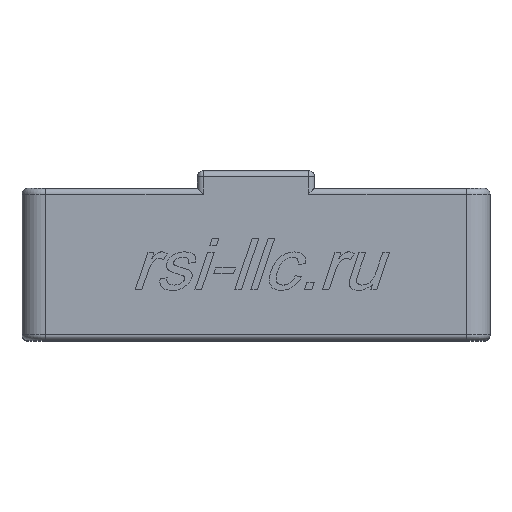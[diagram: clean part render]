
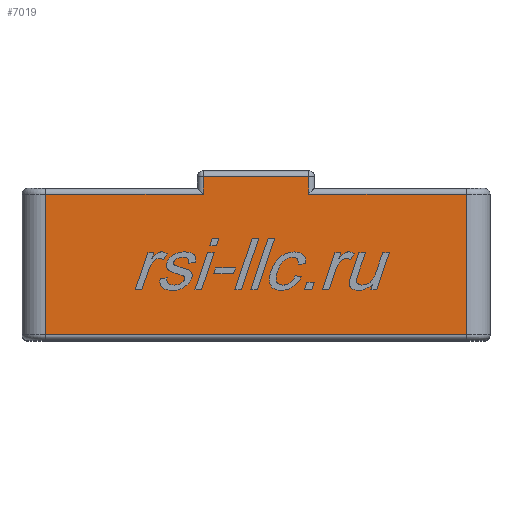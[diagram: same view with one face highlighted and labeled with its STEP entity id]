
A CAD part, top view. The second image highlights one B-rep face of the part: STEP entity #7019.
In plain terms, the highlighted planar face has unit normal (0, 0, 1).
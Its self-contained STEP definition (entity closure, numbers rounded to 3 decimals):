
#111 = EDGE_CURVE ( 'NONE', #3828, #9330, #7464, .T. ) ;
#196 = CARTESIAN_POINT ( 'NONE',  ( -4.5, 8., 20. ) ) ;
#231 = LINE ( 'NONE', #3742, #6544 ) ;
#521 = FACE_OUTER_BOUND ( 'NONE', #1381, .T. ) ;
#673 = VERTEX_POINT ( 'NONE', #8792 ) ;
#960 = DIRECTION ( 'NONE',  ( 0., -1., 0. ) ) ;
#1109 = CARTESIAN_POINT ( 'NONE',  ( 4.5, 6., 20. ) ) ;
#1183 = VECTOR ( 'NONE', #4587, 1000. ) ;
#1377 = VERTEX_POINT ( 'NONE', #10832 ) ;
#1381 = EDGE_LOOP ( 'NONE', ( #10564, #9162, #4146, #7813, #3777, #2684, #5734, #8548 ) ) ;
#1675 = EDGE_CURVE ( 'NONE', #3386, #3828, #7974, .T. ) ;
#1980 = CARTESIAN_POINT ( 'NONE',  ( 4.5, 6., 20. ) ) ;
#2051 = CARTESIAN_POINT ( 'NONE',  ( 18., 6., 20. ) ) ;
#2379 = CARTESIAN_POINT ( 'NONE',  ( -18., 6.5, 20. ) ) ;
#2466 = LINE ( 'NONE', #6843, #3739 ) ;
#2555 = VERTEX_POINT ( 'NONE', #2051 ) ;
#2628 = VERTEX_POINT ( 'NONE', #7405 ) ;
#2684 = ORIENTED_EDGE ( 'NONE', *, *, #8121, .T. ) ;
#2802 = CARTESIAN_POINT ( 'NONE',  ( -18., -6., 20. ) ) ;
#2837 = VERTEX_POINT ( 'NONE', #1980 ) ;
#3199 = DIRECTION ( 'NONE',  ( -1., 0., 0. ) ) ;
#3386 = VERTEX_POINT ( 'NONE', #6962 ) ;
#3544 = VECTOR ( 'NONE', #960, 1000. ) ;
#3699 = DIRECTION ( 'NONE',  ( 0., -1., 0. ) ) ;
#3739 = VECTOR ( 'NONE', #10257, 1000. ) ;
#3742 = CARTESIAN_POINT ( 'NONE',  ( -18., 7.5, 20. ) ) ;
#3777 = ORIENTED_EDGE ( 'NONE', *, *, #5511, .T. ) ;
#3828 = VERTEX_POINT ( 'NONE', #9187 ) ;
#4013 = PLANE ( 'NONE',  #6863 ) ;
#4146 = ORIENTED_EDGE ( 'NONE', *, *, #1675, .T. ) ;
#4154 = LINE ( 'NONE', #7580, #10181 ) ;
#4522 = CARTESIAN_POINT ( 'NONE',  ( -18., 6., 20. ) ) ;
#4587 = DIRECTION ( 'NONE',  ( -1., 0., 0. ) ) ;
#5283 = LINE ( 'NONE', #8701, #3544 ) ;
#5511 = EDGE_CURVE ( 'NONE', #9330, #673, #5283, .T. ) ;
#5734 = ORIENTED_EDGE ( 'NONE', *, *, #10974, .F. ) ;
#5809 = DIRECTION ( 'NONE',  ( 0., 0., -1. ) ) ;
#5923 = EDGE_CURVE ( 'NONE', #1377, #2837, #2466, .T. ) ;
#6053 = EDGE_CURVE ( 'NONE', #2555, #2837, #8849, .T. ) ;
#6223 = DIRECTION ( 'NONE',  ( 1., 0., 0. ) ) ;
#6544 = VECTOR ( 'NONE', #7166, 1000. ) ;
#6843 = CARTESIAN_POINT ( 'NONE',  ( 4.5, 8., 20. ) ) ;
#6863 = AXIS2_PLACEMENT_3D ( 'NONE', #2379, #5809, #9246 ) ;
#6962 = CARTESIAN_POINT ( 'NONE',  ( -4.5, 7.5, 20. ) ) ;
#7019 = ADVANCED_FACE ( 'NONE', ( #521 ), #4013, .F. ) ;
#7166 = DIRECTION ( 'NONE',  ( -1., 0., 0. ) ) ;
#7405 = CARTESIAN_POINT ( 'NONE',  ( 18., -6., 20. ) ) ;
#7464 = LINE ( 'NONE', #10860, #10877 ) ;
#7580 = CARTESIAN_POINT ( 'NONE',  ( 18., 6.5, 20. ) ) ;
#7813 = ORIENTED_EDGE ( 'NONE', *, *, #111, .T. ) ;
#7974 = LINE ( 'NONE', #196, #9702 ) ;
#8121 = EDGE_CURVE ( 'NONE', #673, #2628, #10493, .T. ) ;
#8548 = ORIENTED_EDGE ( 'NONE', *, *, #6053, .T. ) ;
#8636 = EDGE_CURVE ( 'NONE', #1377, #3386, #231, .T. ) ;
#8701 = CARTESIAN_POINT ( 'NONE',  ( -18., 6.5, 20. ) ) ;
#8792 = CARTESIAN_POINT ( 'NONE',  ( -18., -6., 20. ) ) ;
#8849 = LINE ( 'NONE', #1109, #1183 ) ;
#9162 = ORIENTED_EDGE ( 'NONE', *, *, #8636, .T. ) ;
#9187 = CARTESIAN_POINT ( 'NONE',  ( -4.5, 6., 20. ) ) ;
#9246 = DIRECTION ( 'NONE',  ( -1., 0., 0. ) ) ;
#9330 = VERTEX_POINT ( 'NONE', #4522 ) ;
#9702 = VECTOR ( 'NONE', #3699, 1000. ) ;
#10181 = VECTOR ( 'NONE', #10990, 1000. ) ;
#10257 = DIRECTION ( 'NONE',  ( 0., -1., 0. ) ) ;
#10493 = LINE ( 'NONE', #2802, #10782 ) ;
#10564 = ORIENTED_EDGE ( 'NONE', *, *, #5923, .F. ) ;
#10782 = VECTOR ( 'NONE', #6223, 1000. ) ;
#10832 = CARTESIAN_POINT ( 'NONE',  ( 4.5, 7.5, 20. ) ) ;
#10860 = CARTESIAN_POINT ( 'NONE',  ( -18., 6., 20. ) ) ;
#10877 = VECTOR ( 'NONE', #3199, 1000. ) ;
#10974 = EDGE_CURVE ( 'NONE', #2555, #2628, #4154, .T. ) ;
#10990 = DIRECTION ( 'NONE',  ( 0., -1., 0. ) ) ;
